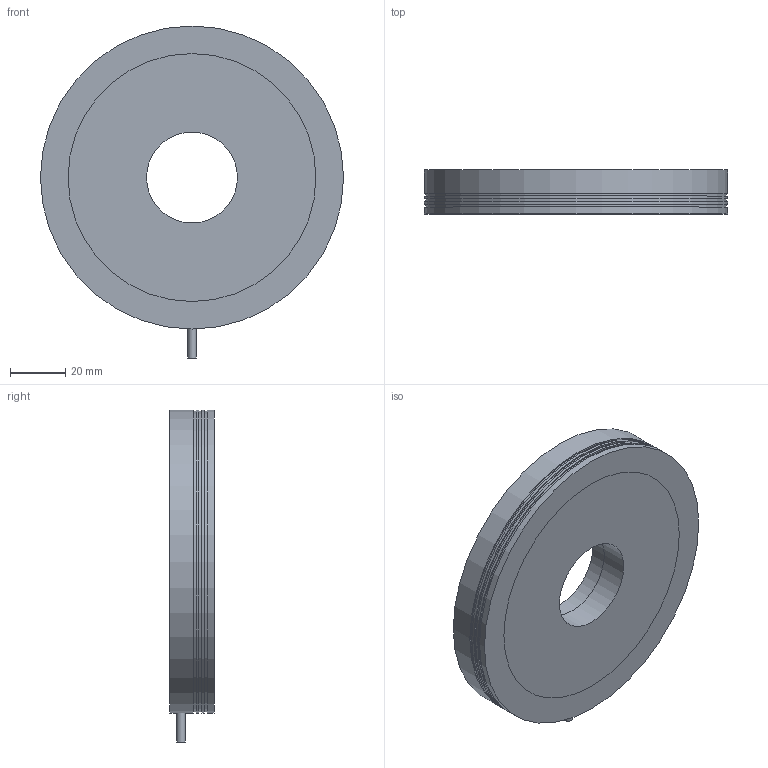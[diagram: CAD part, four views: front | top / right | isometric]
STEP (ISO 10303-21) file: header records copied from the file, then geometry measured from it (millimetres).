
FILE_DESCRIPTION(/* description */ (''),/* implementation_level */ '2;1');
FILE_NAME(/* name */ 'C:\#Vault-WorkDir\Konstruktions-Dokumente\Projekte\Zubehör allgemein\Falcon Beleuchtungen\153-00735_LR 100 xID-24-KFL5.stp',/* time_stamp */ '2018-07-26T09:40:22+02:00',/* author */ ('SensoPart'),/* organization */ ('SensoPart'),/* preprocessor_version */ 'ST-DEVELOPER v17',/* originating_system */ 'Autodesk Inventor 2018',/* authorisation */ '');
FILE_SCHEMA (('AUTOMOTIVE_DESIGN { 1 0 10303 214 3 1 1 }'));
Length unit declared in the file: millimetre
Products named in the file (1): GH-ENG-0026336_Shrinkwrap_1
Bounding box: 110 x 16 x 120.5 mm (x, y, z)
Volume: 137805.2 mm3; surface area: 45017.6 mm2
Topology: 3 solids, 3 shells, 45 faces, 112 edges, 86 vertices
Faces by surface type: cylinder 22, plane 19, cone 4
Full cylindrical faces by diameter (mm): 2.5 x4, 3 x4, 3.1 x1, 33 x2, 90 x2, 94 x2, 109 x3, 110 x4
Entity records: 1523 total; most frequent: DIRECTION 282, CARTESIAN_POINT 240, ORIENTED_EDGE 216, AXIS2_PLACEMENT_3D 128, EDGE_CURVE 108, VERTEX_POINT 86, CIRCLE 82, EDGE_LOOP 66
